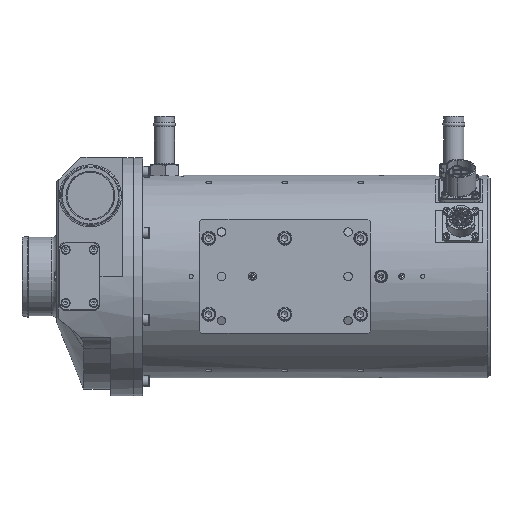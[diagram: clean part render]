
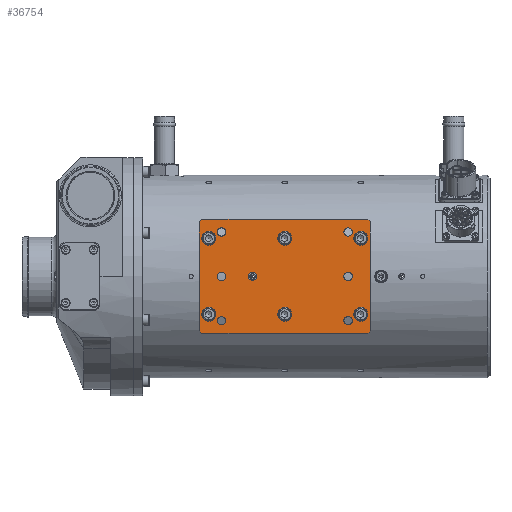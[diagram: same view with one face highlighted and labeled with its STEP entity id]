
A CAD part, top view. The second image highlights one B-rep face of the part: STEP entity #36754.
In plain terms, the highlighted planar face has unit normal (0, 0, 1).
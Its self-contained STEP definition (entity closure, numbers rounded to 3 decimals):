
#1219=FACE_BOUND('',#6872,.T.);
#1220=FACE_BOUND('',#6873,.T.);
#1221=FACE_BOUND('',#6874,.T.);
#1222=FACE_BOUND('',#6875,.T.);
#1223=FACE_BOUND('',#6876,.T.);
#1224=FACE_BOUND('',#6877,.T.);
#1225=FACE_BOUND('',#6878,.T.);
#1226=FACE_BOUND('',#6879,.T.);
#1227=FACE_BOUND('',#6880,.T.);
#1228=FACE_BOUND('',#6881,.T.);
#1229=FACE_BOUND('',#6882,.T.);
#1230=FACE_BOUND('',#6883,.T.);
#1231=FACE_BOUND('',#6884,.T.);
#1943=CIRCLE('',#39272,5.5);
#1944=CIRCLE('',#39273,5.5);
#1945=CIRCLE('',#39274,5.5);
#1946=CIRCLE('',#39275,5.5);
#1947=CIRCLE('',#39276,5.5);
#1948=CIRCLE('',#39277,5.5);
#1949=CIRCLE('',#39278,3.324);
#1950=CIRCLE('',#39279,3.324);
#1951=CIRCLE('',#39280,3.324);
#1952=CIRCLE('',#39281,3.324);
#1953=CIRCLE('',#39282,3.324);
#1954=CIRCLE('',#39283,3.324);
#1955=CIRCLE('',#39284,3.25);
#3339=PLANE('',#39271);
#4769=FACE_OUTER_BOUND('',#6871,.T.);
#6871=EDGE_LOOP('',(#29048,#29049,#29050,#29051,#29052,#29053,#29054,#29055));
#6872=EDGE_LOOP('',(#29056));
#6873=EDGE_LOOP('',(#29057));
#6874=EDGE_LOOP('',(#29058));
#6875=EDGE_LOOP('',(#29059));
#6876=EDGE_LOOP('',(#29060));
#6877=EDGE_LOOP('',(#29061));
#6878=EDGE_LOOP('',(#29062));
#6879=EDGE_LOOP('',(#29063));
#6880=EDGE_LOOP('',(#29064));
#6881=EDGE_LOOP('',(#29065));
#6882=EDGE_LOOP('',(#29066));
#6883=EDGE_LOOP('',(#29067));
#6884=EDGE_LOOP('',(#29068));
#9914=LINE('',#61795,#12872);
#9921=LINE('',#61809,#12879);
#9927=LINE('',#61825,#12885);
#9935=LINE('',#61841,#12893);
#9937=LINE('',#61844,#12895);
#9938=LINE('',#61846,#12896);
#9939=LINE('',#61848,#12897);
#9940=LINE('',#61849,#12898);
#12872=VECTOR('',#45896,10.);
#12879=VECTOR('',#45907,10.);
#12885=VECTOR('',#45919,10.);
#12893=VECTOR('',#45931,10.);
#12895=VECTOR('',#45935,10.);
#12896=VECTOR('',#45936,10.);
#12897=VECTOR('',#45937,10.);
#12898=VECTOR('',#45938,10.);
#16717=VERTEX_POINT('',#61792);
#16718=VERTEX_POINT('',#61794);
#16723=VERTEX_POINT('',#61808);
#16730=VERTEX_POINT('',#61824);
#16735=VERTEX_POINT('',#61838);
#16736=VERTEX_POINT('',#61840);
#16737=VERTEX_POINT('',#61845);
#16738=VERTEX_POINT('',#61847);
#16739=VERTEX_POINT('',#61850);
#16740=VERTEX_POINT('',#61852);
#16741=VERTEX_POINT('',#61854);
#16742=VERTEX_POINT('',#61856);
#16743=VERTEX_POINT('',#61858);
#16744=VERTEX_POINT('',#61860);
#16745=VERTEX_POINT('',#61862);
#16746=VERTEX_POINT('',#61864);
#16747=VERTEX_POINT('',#61866);
#16748=VERTEX_POINT('',#61868);
#16749=VERTEX_POINT('',#61870);
#16750=VERTEX_POINT('',#61872);
#16751=VERTEX_POINT('',#61874);
#21127=EDGE_CURVE('',#16717,#16718,#9914,.T.);
#21134=EDGE_CURVE('',#16723,#16718,#9921,.T.);
#21142=EDGE_CURVE('',#16723,#16730,#9927,.T.);
#21150=EDGE_CURVE('',#16735,#16736,#9935,.T.);
#21152=EDGE_CURVE('',#16717,#16736,#9937,.T.);
#21153=EDGE_CURVE('',#16737,#16735,#9938,.T.);
#21154=EDGE_CURVE('',#16738,#16737,#9939,.T.);
#21155=EDGE_CURVE('',#16730,#16738,#9940,.T.);
#21156=EDGE_CURVE('',#16739,#16739,#1943,.T.);
#21157=EDGE_CURVE('',#16740,#16740,#1944,.T.);
#21158=EDGE_CURVE('',#16741,#16741,#1945,.T.);
#21159=EDGE_CURVE('',#16742,#16742,#1946,.T.);
#21160=EDGE_CURVE('',#16743,#16743,#1947,.T.);
#21161=EDGE_CURVE('',#16744,#16744,#1948,.T.);
#21162=EDGE_CURVE('',#16745,#16745,#1949,.T.);
#21163=EDGE_CURVE('',#16746,#16746,#1950,.T.);
#21164=EDGE_CURVE('',#16747,#16747,#1951,.T.);
#21165=EDGE_CURVE('',#16748,#16748,#1952,.T.);
#21166=EDGE_CURVE('',#16749,#16749,#1953,.T.);
#21167=EDGE_CURVE('',#16750,#16750,#1954,.T.);
#21168=EDGE_CURVE('',#16751,#16751,#1955,.T.);
#29048=ORIENTED_EDGE('',*,*,#21127,.F.);
#29049=ORIENTED_EDGE('',*,*,#21152,.T.);
#29050=ORIENTED_EDGE('',*,*,#21150,.F.);
#29051=ORIENTED_EDGE('',*,*,#21153,.F.);
#29052=ORIENTED_EDGE('',*,*,#21154,.F.);
#29053=ORIENTED_EDGE('',*,*,#21155,.F.);
#29054=ORIENTED_EDGE('',*,*,#21142,.F.);
#29055=ORIENTED_EDGE('',*,*,#21134,.T.);
#29056=ORIENTED_EDGE('',*,*,#21156,.T.);
#29057=ORIENTED_EDGE('',*,*,#21157,.T.);
#29058=ORIENTED_EDGE('',*,*,#21158,.T.);
#29059=ORIENTED_EDGE('',*,*,#21159,.T.);
#29060=ORIENTED_EDGE('',*,*,#21160,.T.);
#29061=ORIENTED_EDGE('',*,*,#21161,.T.);
#29062=ORIENTED_EDGE('',*,*,#21162,.T.);
#29063=ORIENTED_EDGE('',*,*,#21163,.T.);
#29064=ORIENTED_EDGE('',*,*,#21164,.T.);
#29065=ORIENTED_EDGE('',*,*,#21165,.T.);
#29066=ORIENTED_EDGE('',*,*,#21166,.T.);
#29067=ORIENTED_EDGE('',*,*,#21167,.T.);
#29068=ORIENTED_EDGE('',*,*,#21168,.T.);
#36754=ADVANCED_FACE('',(#4769,#1219,#1220,#1221,#1222,#1223,#1224,#1225,
#1226,#1227,#1228,#1229,#1230,#1231),#3339,.T.);
#39271=AXIS2_PLACEMENT_3D('',#61843,#45933,#45934);
#39272=AXIS2_PLACEMENT_3D('',#61851,#45939,#45940);
#39273=AXIS2_PLACEMENT_3D('',#61853,#45941,#45942);
#39274=AXIS2_PLACEMENT_3D('',#61855,#45943,#45944);
#39275=AXIS2_PLACEMENT_3D('',#61857,#45945,#45946);
#39276=AXIS2_PLACEMENT_3D('',#61859,#45947,#45948);
#39277=AXIS2_PLACEMENT_3D('',#61861,#45949,#45950);
#39278=AXIS2_PLACEMENT_3D('',#61863,#45951,#45952);
#39279=AXIS2_PLACEMENT_3D('',#61865,#45953,#45954);
#39280=AXIS2_PLACEMENT_3D('',#61867,#45955,#45956);
#39281=AXIS2_PLACEMENT_3D('',#61869,#45957,#45958);
#39282=AXIS2_PLACEMENT_3D('',#61871,#45959,#45960);
#39283=AXIS2_PLACEMENT_3D('',#61873,#45961,#45962);
#39284=AXIS2_PLACEMENT_3D('',#61875,#45963,#45964);
#45896=DIRECTION('',(0.707,-0.707,0.));
#45907=DIRECTION('',(0.,1.,0.));
#45919=DIRECTION('',(-0.707,-0.707,0.));
#45931=DIRECTION('',(0.707,0.707,0.));
#45933=DIRECTION('center_axis',(0.,0.,
1.));
#45934=DIRECTION('ref_axis',(0.,1.,0.));
#45935=DIRECTION('',(-1.,0.,0.));
#45936=DIRECTION('',(0.,1.,0.));
#45937=DIRECTION('',(-0.707,0.707,0.));
#45938=DIRECTION('',(-1.,0.,0.));
#45939=DIRECTION('center_axis',(0.,0.,
-1.));
#45940=DIRECTION('ref_axis',(0.,-1.,0.));
#45941=DIRECTION('center_axis',(0.,0.,
-1.));
#45942=DIRECTION('ref_axis',(0.,-1.,0.));
#45943=DIRECTION('center_axis',(0.,0.,
-1.));
#45944=DIRECTION('ref_axis',(0.,-1.,0.));
#45945=DIRECTION('center_axis',(0.,0.,
-1.));
#45946=DIRECTION('ref_axis',(0.,-1.,0.));
#45947=DIRECTION('center_axis',(0.,0.,
-1.));
#45948=DIRECTION('ref_axis',(0.,-1.,0.));
#45949=DIRECTION('center_axis',(0.,0.,
-1.));
#45950=DIRECTION('ref_axis',(0.,-1.,0.));
#45951=DIRECTION('center_axis',(0.,0.,
-1.));
#45952=DIRECTION('ref_axis',(0.,-1.,0.));
#45953=DIRECTION('center_axis',(0.,0.,
-1.));
#45954=DIRECTION('ref_axis',(0.,-1.,0.));
#45955=DIRECTION('center_axis',(0.,0.,
-1.));
#45956=DIRECTION('ref_axis',(0.,-1.,0.));
#45957=DIRECTION('center_axis',(0.,0.,
-1.));
#45958=DIRECTION('ref_axis',(0.,-1.,0.));
#45959=DIRECTION('center_axis',(0.,0.,
-1.));
#45960=DIRECTION('ref_axis',(0.,-1.,0.));
#45961=DIRECTION('center_axis',(0.,0.,
-1.));
#45962=DIRECTION('ref_axis',(0.,-1.,0.));
#45963=DIRECTION('center_axis',(0.,0.,
-1.));
#45964=DIRECTION('ref_axis',(0.,-1.,0.));
#61792=CARTESIAN_POINT('',(198.5,45.,98.));
#61794=CARTESIAN_POINT('',(200.5,43.,98.));
#61795=CARTESIAN_POINT('',(222.,21.5,98.));
#61808=CARTESIAN_POINT('',(200.5,-43.,98.));
#61809=CARTESIAN_POINT('',(200.5,-45.,98.));
#61824=CARTESIAN_POINT('',(198.5,-45.,98.));
#61825=CARTESIAN_POINT('',(199.5,-44.,98.));
#61838=CARTESIAN_POINT('',(65.5,43.,98.));
#61840=CARTESIAN_POINT('',(67.5,45.,98.));
#61841=CARTESIAN_POINT('',(77.75,55.25,98.));
#61843=CARTESIAN_POINT('Origin',(200.5,-45.,98.));
#61844=CARTESIAN_POINT('',(200.5,45.,98.));
#61845=CARTESIAN_POINT('',(65.5,-43.,98.));
#61846=CARTESIAN_POINT('',(65.5,-45.,98.));
#61847=CARTESIAN_POINT('',(67.5,-45.,98.));
#61848=CARTESIAN_POINT('',(100.25,-77.75,98.));
#61849=CARTESIAN_POINT('',(200.5,-45.,98.));
#61850=CARTESIAN_POINT('',(133.,35.5,98.));
#61851=CARTESIAN_POINT('Origin',(133.,30.,98.));
#61852=CARTESIAN_POINT('',(73.,-24.5,98.));
#61853=CARTESIAN_POINT('Origin',(73.,-30.,98.));
#61854=CARTESIAN_POINT('',(193.,-24.5,98.));
#61855=CARTESIAN_POINT('Origin',(193.,-30.,98.));
#61856=CARTESIAN_POINT('',(193.,35.5,98.));
#61857=CARTESIAN_POINT('Origin',(193.,30.,98.));
#61858=CARTESIAN_POINT('',(73.,35.5,98.));
#61859=CARTESIAN_POINT('Origin',(73.,30.,98.));
#61860=CARTESIAN_POINT('',(133.,-24.5,98.));
#61861=CARTESIAN_POINT('Origin',(133.,-30.,98.));
#61862=CARTESIAN_POINT('',(83.,-31.677,98.));
#61863=CARTESIAN_POINT('Origin',(83.,-35.,98.));
#61864=CARTESIAN_POINT('',(183.,38.324,98.));
#61865=CARTESIAN_POINT('Origin',(183.,35.,98.));
#61866=CARTESIAN_POINT('',(83.,3.324,98.));
#61867=CARTESIAN_POINT('Origin',(83.,0.,
98.));
#61868=CARTESIAN_POINT('',(183.,3.323,98.));
#61869=CARTESIAN_POINT('Origin',(183.,0.,98.));
#61870=CARTESIAN_POINT('',(83.,38.324,98.));
#61871=CARTESIAN_POINT('Origin',(83.,35.,98.));
#61872=CARTESIAN_POINT('',(183.,-31.677,98.));
#61873=CARTESIAN_POINT('Origin',(183.,-35.,98.));
#61874=CARTESIAN_POINT('',(107.5,3.25,98.));
#61875=CARTESIAN_POINT('Origin',(107.5,0.,98.));
